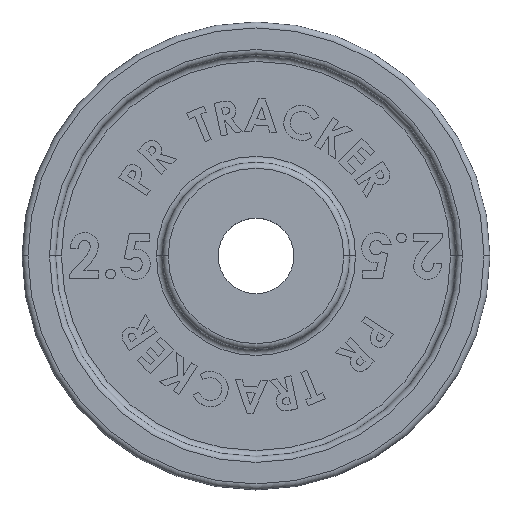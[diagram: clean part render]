
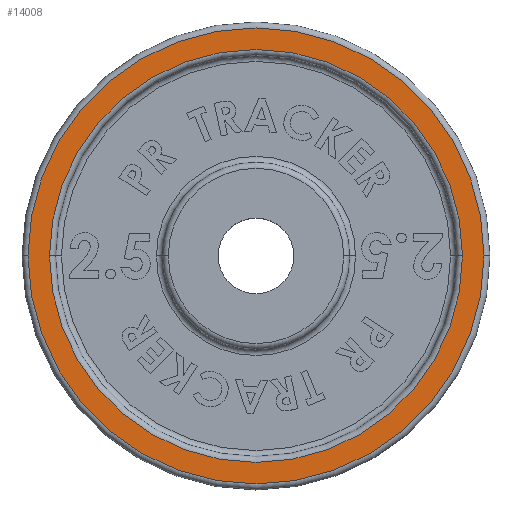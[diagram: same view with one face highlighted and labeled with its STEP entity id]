
A CAD part, top view. The second image highlights one B-rep face of the part: STEP entity #14008.
In plain terms, the highlighted planar face has unit normal (0, 0, 1).
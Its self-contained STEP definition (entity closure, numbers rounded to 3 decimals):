
#1665 = ORIENTED_EDGE ( 'NONE', *, *, #10073, .T. ) ;
#1899 = DIRECTION ( 'NONE',  ( 1., 0., 0. ) ) ;
#3179 = VERTEX_POINT ( 'NONE', #15853 ) ;
#3208 = VERTEX_POINT ( 'NONE', #13539 ) ;
#3767 = ORIENTED_EDGE ( 'NONE', *, *, #17361, .T. ) ;
#4066 = DIRECTION ( 'NONE',  ( 1., 0., 0. ) ) ;
#4201 = EDGE_CURVE ( 'NONE', #3208, #21916, #8486, .T. ) ;
#5370 = AXIS2_PLACEMENT_3D ( 'NONE', #29759, #29906, #4066 ) ;
#6499 = AXIS2_PLACEMENT_3D ( 'NONE', #12718, #12105, #28492 ) ;
#8486 = CIRCLE ( 'NONE', #28714, 15.35 ) ;
#8879 = CARTESIAN_POINT ( 'NONE',  ( 0., 0., 4. ) ) ;
#9322 = CARTESIAN_POINT ( 'NONE',  ( 0., 0., 4. ) ) ;
#9695 = VERTEX_POINT ( 'NONE', #30498 ) ;
#10073 = EDGE_CURVE ( 'NONE', #21916, #3208, #21369, .T. ) ;
#12105 = DIRECTION ( 'NONE',  ( 0., 0., -1. ) ) ;
#12718 = CARTESIAN_POINT ( 'NONE',  ( 0., 0., 4. ) ) ;
#13539 = CARTESIAN_POINT ( 'NONE',  ( -15.35, 0., 4. ) ) ;
#14008 = ADVANCED_FACE ( 'NONE', ( #20318, #18311 ), #24976, .T. ) ;
#14132 = DIRECTION ( 'NONE',  ( 0., 0., -1. ) ) ;
#15853 = CARTESIAN_POINT ( 'NONE',  ( 13.9, 0., 4. ) ) ;
#16444 = DIRECTION ( 'NONE',  ( 0., 0., 1. ) ) ;
#16487 = EDGE_CURVE ( 'NONE', #3179, #9695, #24764, .T. ) ;
#17361 = EDGE_CURVE ( 'NONE', #9695, #3179, #21809, .T. ) ;
#17460 = ORIENTED_EDGE ( 'NONE', *, *, #4201, .T. ) ;
#18311 = FACE_BOUND ( 'NONE', #26751, .T. ) ;
#20318 = FACE_OUTER_BOUND ( 'NONE', #23620, .T. ) ;
#20400 = AXIS2_PLACEMENT_3D ( 'NONE', #20924, #16444, #26025 ) ;
#20483 = DIRECTION ( 'NONE',  ( 0., 0., 1. ) ) ;
#20924 = CARTESIAN_POINT ( 'NONE',  ( 0., 0., 4. ) ) ;
#21369 = CIRCLE ( 'NONE', #20400, 15.35 ) ;
#21382 = ORIENTED_EDGE ( 'NONE', *, *, #16487, .T. ) ;
#21809 = CIRCLE ( 'NONE', #6499, 13.9 ) ;
#21916 = VERTEX_POINT ( 'NONE', #23825 ) ;
#23421 = DIRECTION ( 'NONE',  ( 1., 0., 0. ) ) ;
#23620 = EDGE_LOOP ( 'NONE', ( #1665, #17460 ) ) ;
#23825 = CARTESIAN_POINT ( 'NONE',  ( 15.35, 0., 4. ) ) ;
#24764 = CIRCLE ( 'NONE', #26720, 13.9 ) ;
#24976 = PLANE ( 'NONE',  #5370 ) ;
#26025 = DIRECTION ( 'NONE',  ( 1., 0., 0. ) ) ;
#26720 = AXIS2_PLACEMENT_3D ( 'NONE', #9322, #14132, #23421 ) ;
#26751 = EDGE_LOOP ( 'NONE', ( #21382, #3767 ) ) ;
#28492 = DIRECTION ( 'NONE',  ( 1., 0., 0. ) ) ;
#28714 = AXIS2_PLACEMENT_3D ( 'NONE', #8879, #20483, #1899 ) ;
#29759 = CARTESIAN_POINT ( 'NONE',  ( 0., 0., 4. ) ) ;
#29906 = DIRECTION ( 'NONE',  ( 0., 0., 1. ) ) ;
#30498 = CARTESIAN_POINT ( 'NONE',  ( -13.9, 0., 4. ) ) ;
